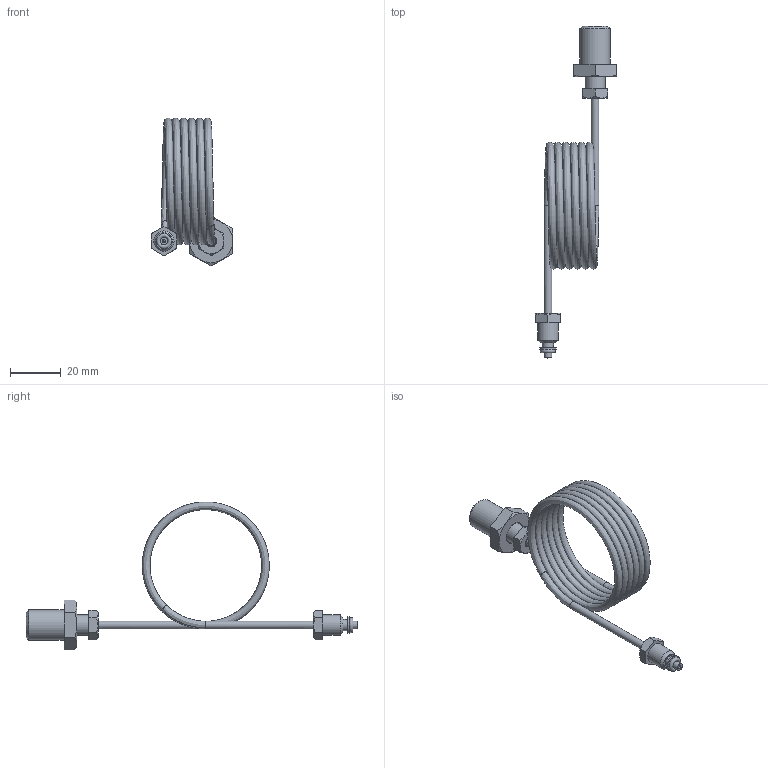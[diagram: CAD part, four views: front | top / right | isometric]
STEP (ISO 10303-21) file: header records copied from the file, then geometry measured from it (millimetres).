
FILE_DESCRIPTION(('STEP AP203'), '1');
FILE_NAME('Òðóáîïðîâîä èìïóëüñíûé â ñáîðå', '2024-08-07T12:36:17', ('User'), ('Vesta'), 'C3D Converter', 'C3D Toolkit', '');
FILE_SCHEMA(('CONFIG_CONTROL_DESIGN'));
Length unit declared in the file: millimetre
Bounding box: 32.1 x 130.86 x 58.31 mm (x, y, z)
Volume: 9915.4 mm3; surface area: 15320.4 mm2
Topology: 1 solids, 1 shells, 76 faces, 154 edges, 93 vertices
Faces by surface type: plane 33, cone 24, cylinder 12, bspline 6, torus 1
Full cylindrical faces by diameter (mm): 1.2 x2, 3 x4, 4.4 x2, 6.5 x1, 8 x2, 12 x1
Entity records: 8601 total; most frequent: CARTESIAN_POINT 7140, DIRECTION 281, ORIENTED_EDGE 260, EDGE_CURVE 130, AXIS2_PLACEMENT_3D 122, EDGE_LOOP 115, VERTEX_POINT 93, ADVANCED_FACE 76
